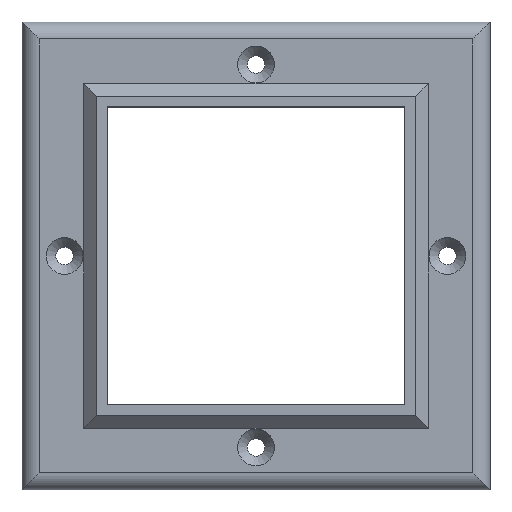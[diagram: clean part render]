
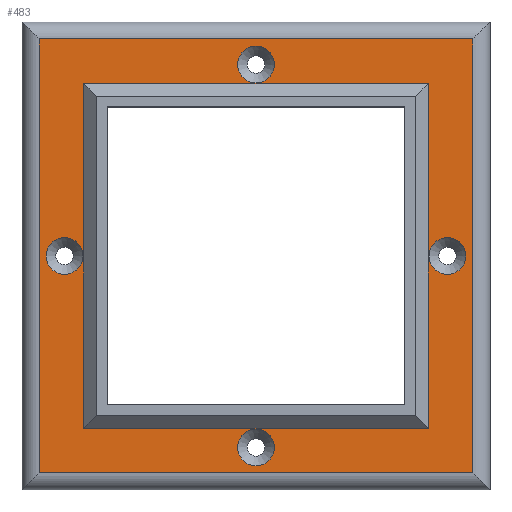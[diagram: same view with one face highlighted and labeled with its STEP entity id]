
A CAD part, top view. The second image highlights one B-rep face of the part: STEP entity #483.
In plain terms, the highlighted planar face has unit normal (0, 0, 1).
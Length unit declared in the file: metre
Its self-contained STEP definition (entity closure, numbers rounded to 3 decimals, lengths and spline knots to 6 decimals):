
#58=LINE('',#780,#98);
#59=LINE('',#783,#99);
#60=LINE('',#785,#100);
#61=LINE('',#787,#101);
#62=LINE('',#788,#102);
#63=LINE('',#791,#103);
#64=LINE('',#793,#104);
#65=LINE('',#795,#105);
#98=VECTOR('',#632,1.);
#99=VECTOR('',#633,1.);
#100=VECTOR('',#634,1.);
#101=VECTOR('',#635,1.);
#102=VECTOR('',#636,1.);
#103=VECTOR('',#637,1.);
#104=VECTOR('',#638,1.);
#105=VECTOR('',#639,1.);
#166=ORIENTED_EDGE('',*,*,#266,.T.);
#167=ORIENTED_EDGE('',*,*,#267,.T.);
#168=ORIENTED_EDGE('',*,*,#268,.T.);
#169=ORIENTED_EDGE('',*,*,#269,.T.);
#170=ORIENTED_EDGE('',*,*,#270,.T.);
#171=ORIENTED_EDGE('',*,*,#271,.T.);
#172=ORIENTED_EDGE('',*,*,#272,.T.);
#173=ORIENTED_EDGE('',*,*,#273,.T.);
#174=ORIENTED_EDGE('',*,*,#274,.T.);
#175=ORIENTED_EDGE('',*,*,#275,.T.);
#176=ORIENTED_EDGE('',*,*,#276,.T.);
#177=ORIENTED_EDGE('',*,*,#277,.T.);
#266=EDGE_CURVE('',#318,#319,#58,.T.);
#267=EDGE_CURVE('',#319,#320,#59,.T.);
#268=EDGE_CURVE('',#320,#321,#60,.T.);
#269=EDGE_CURVE('',#321,#318,#61,.T.);
#270=EDGE_CURVE('',#322,#323,#62,.T.);
#271=EDGE_CURVE('',#323,#324,#63,.T.);
#272=EDGE_CURVE('',#324,#325,#64,.F.);
#273=EDGE_CURVE('',#325,#322,#65,.F.);
#274=EDGE_CURVE('',#326,#326,#342,.T.);
#275=EDGE_CURVE('',#327,#327,#343,.T.);
#276=EDGE_CURVE('',#328,#328,#344,.T.);
#277=EDGE_CURVE('',#329,#329,#345,.T.);
#318=VERTEX_POINT('',#781);
#319=VERTEX_POINT('',#782);
#320=VERTEX_POINT('',#784);
#321=VERTEX_POINT('',#786);
#322=VERTEX_POINT('',#789);
#323=VERTEX_POINT('',#790);
#324=VERTEX_POINT('',#792);
#325=VERTEX_POINT('',#794);
#326=VERTEX_POINT('',#797);
#327=VERTEX_POINT('',#799);
#328=VERTEX_POINT('',#801);
#329=VERTEX_POINT('',#803);
#342=CIRCLE('',#534,0.004318);
#343=CIRCLE('',#535,0.004318);
#344=CIRCLE('',#536,0.004318);
#345=CIRCLE('',#537,0.004318);
#370=EDGE_LOOP('',(#166,#167,#168,#169));
#371=EDGE_LOOP('',(#170,#171,#172,#173));
#372=EDGE_LOOP('',(#174));
#373=EDGE_LOOP('',(#175));
#374=EDGE_LOOP('',(#176));
#375=EDGE_LOOP('',(#177));
#424=FACE_BOUND('',#370,.T.);
#425=FACE_BOUND('',#371,.T.);
#426=FACE_BOUND('',#372,.T.);
#427=FACE_BOUND('',#373,.T.);
#428=FACE_BOUND('',#374,.T.);
#429=FACE_BOUND('',#375,.T.);
#468=PLANE('',#533);
#483=ADVANCED_FACE('',(#424,#425,#426,#427,#428,#429),#468,.T.);
#533=AXIS2_PLACEMENT_3D('',#779,#630,#631);
#534=AXIS2_PLACEMENT_3D('',#796,#640,#641);
#535=AXIS2_PLACEMENT_3D('',#798,#642,#643);
#536=AXIS2_PLACEMENT_3D('',#800,#644,#645);
#537=AXIS2_PLACEMENT_3D('',#802,#646,#647);
#630=DIRECTION('',(0.,0.,1.));
#631=DIRECTION('',(1.,0.,0.));
#632=DIRECTION('',(1.,0.,0.));
#633=DIRECTION('',(0.,-1.,0.));
#634=DIRECTION('',(-1.,0.,0.));
#635=DIRECTION('',(0.,1.,0.));
#636=DIRECTION('',(1.,0.,0.));
#637=DIRECTION('',(0.,1.,0.));
#638=DIRECTION('',(1.,0.,0.));
#639=DIRECTION('',(0.,1.,0.));
#640=DIRECTION('',(0.,0.,-1.));
#641=DIRECTION('',(-1.,0.,0.));
#642=DIRECTION('',(0.,0.,-1.));
#643=DIRECTION('',(-1.,0.,0.));
#644=DIRECTION('',(0.,0.,-1.));
#645=DIRECTION('',(-1.,0.,0.));
#646=DIRECTION('',(0.,0.,-1.));
#647=DIRECTION('',(-1.,0.,0.));
#779=CARTESIAN_POINT('',(0.,0.,0.004));
#780=CARTESIAN_POINT('',(0.0375,0.0405,0.004));
#781=CARTESIAN_POINT('',(-0.0405,0.0405,0.004));
#782=CARTESIAN_POINT('',(0.0405,0.0405,0.004));
#783=CARTESIAN_POINT('',(0.0405,0.,0.004));
#784=CARTESIAN_POINT('',(0.0405,-0.0405,0.004));
#785=CARTESIAN_POINT('',(0.,-0.0405,0.004));
#786=CARTESIAN_POINT('',(-0.0405,-0.0405,0.004));
#787=CARTESIAN_POINT('',(-0.0405,0.0375,0.004));
#788=CARTESIAN_POINT('',(0.055,-0.051,0.004));
#789=CARTESIAN_POINT('',(-0.051,-0.051,0.004));
#790=CARTESIAN_POINT('',(0.051,-0.051,0.004));
#791=CARTESIAN_POINT('',(0.051,0.055,0.004));
#792=CARTESIAN_POINT('',(0.051,0.051,0.004));
#793=CARTESIAN_POINT('',(0.,0.051,0.004));
#794=CARTESIAN_POINT('',(-0.051,0.051,0.004));
#795=CARTESIAN_POINT('',(-0.051,0.,0.004));
#796=CARTESIAN_POINT('',(-0.045,0.,0.004));
#797=CARTESIAN_POINT('',(-0.049318,0.,0.004));
#798=CARTESIAN_POINT('',(0.,0.045,0.004));
#799=CARTESIAN_POINT('',(-0.004318,0.045,0.004));
#800=CARTESIAN_POINT('',(0.045,0.,0.004));
#801=CARTESIAN_POINT('',(0.040682,0.,0.004));
#802=CARTESIAN_POINT('',(0.,-0.045,0.004));
#803=CARTESIAN_POINT('',(-0.004318,-0.045,0.004));
